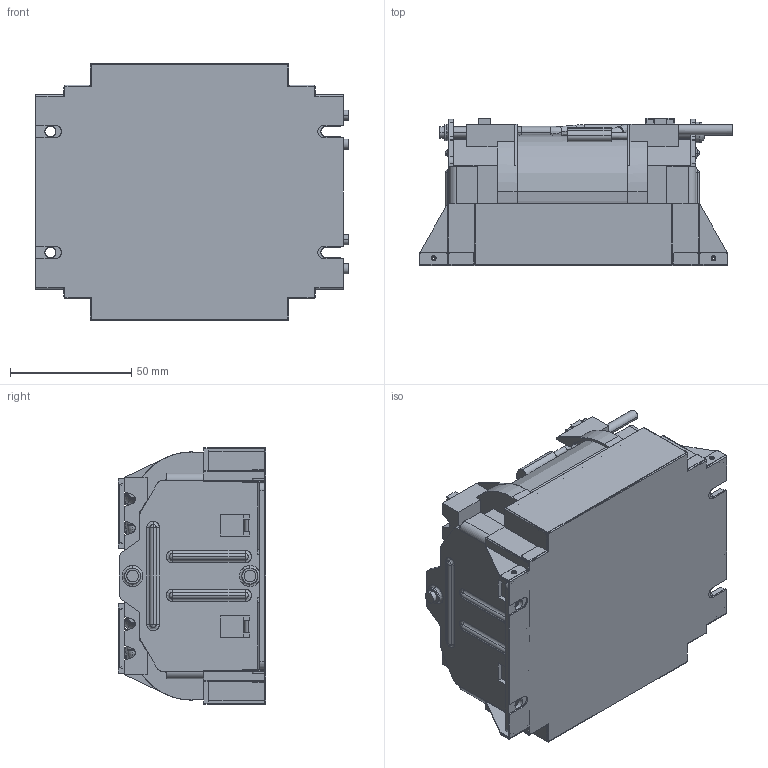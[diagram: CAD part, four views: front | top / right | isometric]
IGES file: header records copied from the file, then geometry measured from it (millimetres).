
Start section: SolidWorks IGES file using analytic representation for surfaces
Global section: file name: 34H\\10.106.230.1\R&D File\05_COMP\02_Mechanical\10_Others\PV_RT 81\网络用3D模型\半灌封模型\4KW_P_ACL\SF14228B-PM00DS20R(M-4KW_ACL-P).IGS; native system: SolidWorks 2009; preprocessor: SolidWorks 2009; author: Administrator; date: 120508.161750; units: millimetre
Bounding box: 129 x 60.9 x 106 mm (x, y, z)
Surface area: 177365.8 mm2 (no closed solid volume)
Topology: 0 solids, 0 shells, 1161 faces, 9335 edges, 9312 vertices
Faces by surface type: bspline 765, revolution 396
